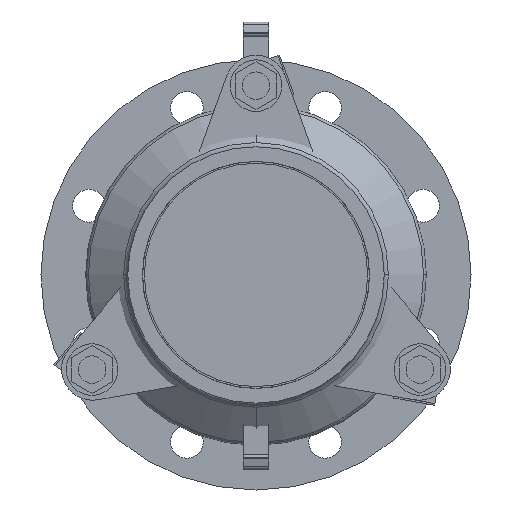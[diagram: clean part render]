
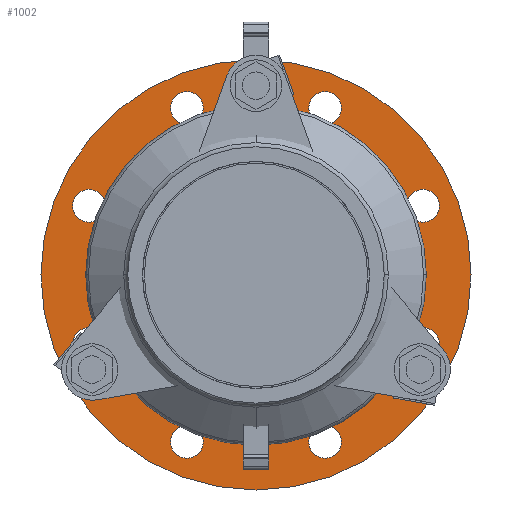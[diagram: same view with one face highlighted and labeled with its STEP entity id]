
A CAD part, left-side view. The second image highlights one B-rep face of the part: STEP entity #1002.
In plain terms, the highlighted planar face has unit normal (-1, 0, 0).
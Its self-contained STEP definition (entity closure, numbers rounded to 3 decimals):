
#1002=ADVANCED_FACE('',(#1963,#1964,#1965,#1966,#1967,#1968,#1969,#1970,#1971,#1972),#1973,.T.);
#1963=FACE_BOUND('',#3173,.T.);
#1964=FACE_BOUND('',#3174,.T.);
#1965=FACE_BOUND('',#3175,.T.);
#1966=FACE_BOUND('',#3176,.T.);
#1967=FACE_BOUND('',#3177,.T.);
#1968=FACE_BOUND('',#3178,.T.);
#1969=FACE_BOUND('',#3179,.T.);
#1970=FACE_BOUND('',#3180,.T.);
#1971=FACE_BOUND('',#3181,.T.);
#1972=FACE_OUTER_BOUND('',#3182,.T.);
#1973=PLANE('',#3183);
#3173=EDGE_LOOP('',(#4903,#4904));
#3174=EDGE_LOOP('',(#4905,#4906));
#3175=EDGE_LOOP('',(#4907,#4908));
#3176=EDGE_LOOP('',(#4909,#4910));
#3177=EDGE_LOOP('',(#4911,#4912));
#3178=EDGE_LOOP('',(#4913,#4914));
#3179=EDGE_LOOP('',(#4915,#4916));
#3180=EDGE_LOOP('',(#4917,#4918));
#3181=EDGE_LOOP('',(#4919,#4920));
#3182=EDGE_LOOP('',(#4921,#4922));
#3183=AXIS2_PLACEMENT_3D('',#4923,#4924,#4925);
#4903=ORIENTED_EDGE('',*,*,#6595,.T.);
#4904=ORIENTED_EDGE('',*,*,#7011,.T.);
#4905=ORIENTED_EDGE('',*,*,#6514,.T.);
#4906=ORIENTED_EDGE('',*,*,#6840,.T.);
#4907=ORIENTED_EDGE('',*,*,#6619,.T.);
#4908=ORIENTED_EDGE('',*,*,#6833,.T.);
#4909=ORIENTED_EDGE('',*,*,#7012,.T.);
#4910=ORIENTED_EDGE('',*,*,#7013,.T.);
#4911=ORIENTED_EDGE('',*,*,#7014,.T.);
#4912=ORIENTED_EDGE('',*,*,#7015,.T.);
#4913=ORIENTED_EDGE('',*,*,#6960,.T.);
#4914=ORIENTED_EDGE('',*,*,#7016,.T.);
#4915=ORIENTED_EDGE('',*,*,#7017,.T.);
#4916=ORIENTED_EDGE('',*,*,#6517,.T.);
#4917=ORIENTED_EDGE('',*,*,#7018,.T.);
#4918=ORIENTED_EDGE('',*,*,#6953,.T.);
#4919=ORIENTED_EDGE('',*,*,#7019,.T.);
#4920=ORIENTED_EDGE('',*,*,#6948,.T.);
#4921=ORIENTED_EDGE('',*,*,#7020,.F.);
#4922=ORIENTED_EDGE('',*,*,#6677,.F.);
#4923=CARTESIAN_POINT('',(-19.0,0.0,0.));
#4924=DIRECTION('',(-1.0,0.0,0.));
#4925=DIRECTION('',(0.,0.0,-1.0));
#6514=EDGE_CURVE('',#7644,#7649,#7651,.T.);
#6517=EDGE_CURVE('',#7656,#7653,#7657,.T.);
#6595=EDGE_CURVE('',#7782,#7787,#7789,.T.);
#6619=EDGE_CURVE('',#7825,#7830,#7832,.T.);
#6677=EDGE_CURVE('',#7926,#7922,#7928,.T.);
#6833=EDGE_CURVE('',#7830,#7825,#8175,.T.);
#6840=EDGE_CURVE('',#7649,#7644,#8184,.T.);
#6948=EDGE_CURVE('',#8345,#8342,#8346,.T.);
#6953=EDGE_CURVE('',#8354,#8351,#8355,.T.);
#6960=EDGE_CURVE('',#8360,#8365,#8367,.T.);
#7011=EDGE_CURVE('',#7787,#7782,#8435,.T.);
#7012=EDGE_CURVE('',#8436,#8437,#8438,.T.);
#7013=EDGE_CURVE('',#8437,#8436,#8439,.T.);
#7014=EDGE_CURVE('',#8440,#8441,#8442,.T.);
#7015=EDGE_CURVE('',#8441,#8440,#8443,.T.);
#7016=EDGE_CURVE('',#8365,#8360,#8444,.T.);
#7017=EDGE_CURVE('',#7653,#7656,#8445,.T.);
#7018=EDGE_CURVE('',#8351,#8354,#8446,.T.);
#7019=EDGE_CURVE('',#8342,#8345,#8447,.T.);
#7020=EDGE_CURVE('',#7922,#7926,#8448,.T.);
#7644=VERTEX_POINT('',#9210);
#7649=VERTEX_POINT('',#9216);
#7651=CIRCLE('',#9219,9.5);
#7653=VERTEX_POINT('',#9221);
#7656=VERTEX_POINT('',#9225);
#7657=CIRCLE('',#9226,9.5);
#7782=VERTEX_POINT('',#9382);
#7787=VERTEX_POINT('',#9388);
#7789=CIRCLE('',#9391,9.5);
#7825=VERTEX_POINT('',#9439);
#7830=VERTEX_POINT('',#9445);
#7832=CIRCLE('',#9448,9.5);
#7922=VERTEX_POINT('',#9566);
#7926=VERTEX_POINT('',#9571);
#7928=CIRCLE('',#9574,125.0);
#8175=CIRCLE('',#9896,9.5);
#8184=CIRCLE('',#9907,9.5);
#8342=VERTEX_POINT('',#10113);
#8345=VERTEX_POINT('',#10117);
#8346=CIRCLE('',#10118,62.5);
#8351=VERTEX_POINT('',#10124);
#8354=VERTEX_POINT('',#10128);
#8355=CIRCLE('',#10129,9.5);
#8360=VERTEX_POINT('',#10135);
#8365=VERTEX_POINT('',#10141);
#8367=CIRCLE('',#10144,9.5);
#8435=CIRCLE('',#10235,9.5);
#8436=VERTEX_POINT('',#10236);
#8437=VERTEX_POINT('',#10237);
#8438=CIRCLE('',#10238,9.5);
#8439=CIRCLE('',#10239,9.5);
#8440=VERTEX_POINT('',#10240);
#8441=VERTEX_POINT('',#10241);
#8442=CIRCLE('',#10242,9.5);
#8443=CIRCLE('',#10243,9.5);
#8444=CIRCLE('',#10244,9.5);
#8445=CIRCLE('',#10245,9.5);
#8446=CIRCLE('',#10246,9.5);
#8447=CIRCLE('',#10247,62.5);
#8448=CIRCLE('',#10248,125.0);
#9210=CARTESIAN_POINT('',(-19.0,-40.182,-106.507));
#9216=CARTESIAN_POINT('',(-19.0,-40.182,-87.507));
#9219=AXIS2_PLACEMENT_3D('',#11017,#11018,#11019);
#9221=CARTESIAN_POINT('',(-19.0,-40.182,87.508));
#9225=CARTESIAN_POINT('',(-19.0,-40.182,106.508));
#9226=AXIS2_PLACEMENT_3D('',#11021,#11022,#11023);
#9382=CARTESIAN_POINT('',(-19.0,-97.007,-49.681));
#9388=CARTESIAN_POINT('',(-19.0,-97.007,-30.681));
#9391=AXIS2_PLACEMENT_3D('',#11141,#11142,#11143);
#9439=CARTESIAN_POINT('',(-19.0,40.182,-106.507));
#9445=CARTESIAN_POINT('',(-19.0,40.182,-87.507));
#9448=AXIS2_PLACEMENT_3D('',#11173,#11174,#11175);
#9566=CARTESIAN_POINT('',(-19.0,0.0,-125.0));
#9571=CARTESIAN_POINT('',(-19.0,0.,125.0));
#9574=AXIS2_PLACEMENT_3D('',#11251,#11252,#11253);
#9896=AXIS2_PLACEMENT_3D('',#11443,#11444,#11445);
#9907=AXIS2_PLACEMENT_3D('',#11454,#11455,#11456);
#10113=CARTESIAN_POINT('',(-19.0,0.0,62.5));
#10117=CARTESIAN_POINT('',(-19.0,0.,-62.5));
#10118=AXIS2_PLACEMENT_3D('',#11596,#11597,#11598);
#10124=CARTESIAN_POINT('',(-19.0,-97.007,30.682));
#10128=CARTESIAN_POINT('',(-19.0,-97.007,49.682));
#10129=AXIS2_PLACEMENT_3D('',#11604,#11605,#11606);
#10135=CARTESIAN_POINT('',(-19.0,40.182,87.508));
#10141=CARTESIAN_POINT('',(-19.0,40.182,106.508));
#10144=AXIS2_PLACEMENT_3D('',#11616,#11617,#11618);
#10235=AXIS2_PLACEMENT_3D('',#11675,#11676,#11677);
#10236=CARTESIAN_POINT('',(-19.0,97.007,-49.681));
#10237=CARTESIAN_POINT('',(-19.0,97.007,-30.681));
#10238=AXIS2_PLACEMENT_3D('',#11678,#11679,#11680);
#10239=AXIS2_PLACEMENT_3D('',#11681,#11682,#11683);
#10240=CARTESIAN_POINT('',(-19.0,97.007,30.682));
#10241=CARTESIAN_POINT('',(-19.0,97.007,49.682));
#10242=AXIS2_PLACEMENT_3D('',#11684,#11685,#11686);
#10243=AXIS2_PLACEMENT_3D('',#11687,#11688,#11689);
#10244=AXIS2_PLACEMENT_3D('',#11690,#11691,#11692);
#10245=AXIS2_PLACEMENT_3D('',#11693,#11694,#11695);
#10246=AXIS2_PLACEMENT_3D('',#11696,#11697,#11698);
#10247=AXIS2_PLACEMENT_3D('',#11699,#11700,#11701);
#10248=AXIS2_PLACEMENT_3D('',#11702,#11703,#11704);
#11017=CARTESIAN_POINT('',(-19.0,-40.182,-97.007));
#11018=DIRECTION('',(1.0,0.0,0.));
#11019=DIRECTION('',(0.,0.0,-1.0));
#11021=CARTESIAN_POINT('',(-19.0,-40.182,97.008));
#11022=DIRECTION('',(1.0,0.0,0.));
#11023=DIRECTION('',(0.,0.0,-1.0));
#11141=CARTESIAN_POINT('',(-19.0,-97.007,-40.181));
#11142=DIRECTION('',(1.0,0.0,0.));
#11143=DIRECTION('',(0.,0.0,-1.0));
#11173=CARTESIAN_POINT('',(-19.0,40.182,-97.007));
#11174=DIRECTION('',(1.0,0.0,0.));
#11175=DIRECTION('',(0.,0.0,-1.0));
#11251=CARTESIAN_POINT('',(-19.0,0.0,0.));
#11252=DIRECTION('',(1.0,0.0,0.));
#11253=DIRECTION('',(0.,0.0,-1.0));
#11443=CARTESIAN_POINT('',(-19.0,40.182,-97.007));
#11444=DIRECTION('',(1.0,0.0,0.));
#11445=DIRECTION('',(0.,0.0,-1.0));
#11454=CARTESIAN_POINT('',(-19.0,-40.182,-97.007));
#11455=DIRECTION('',(1.0,0.0,0.));
#11456=DIRECTION('',(0.,0.0,-1.0));
#11596=CARTESIAN_POINT('',(-19.0,0.0,0.));
#11597=DIRECTION('',(1.0,0.0,0.));
#11598=DIRECTION('',(0.,0.0,1.0));
#11604=CARTESIAN_POINT('',(-19.0,-97.007,40.182));
#11605=DIRECTION('',(1.0,0.0,0.));
#11606=DIRECTION('',(0.,0.0,-1.0));
#11616=CARTESIAN_POINT('',(-19.0,40.182,97.008));
#11617=DIRECTION('',(1.0,0.0,0.));
#11618=DIRECTION('',(0.,0.0,-1.0));
#11675=CARTESIAN_POINT('',(-19.0,-97.007,-40.181));
#11676=DIRECTION('',(1.0,0.0,0.));
#11677=DIRECTION('',(0.,0.0,-1.0));
#11678=CARTESIAN_POINT('',(-19.0,97.007,-40.181));
#11679=DIRECTION('',(1.0,0.0,0.));
#11680=DIRECTION('',(0.,0.0,-1.0));
#11681=CARTESIAN_POINT('',(-19.0,97.007,-40.181));
#11682=DIRECTION('',(1.0,0.0,0.));
#11683=DIRECTION('',(0.,0.0,-1.0));
#11684=CARTESIAN_POINT('',(-19.0,97.007,40.182));
#11685=DIRECTION('',(1.0,0.0,0.));
#11686=DIRECTION('',(0.,0.0,-1.0));
#11687=CARTESIAN_POINT('',(-19.0,97.007,40.182));
#11688=DIRECTION('',(1.0,0.0,0.));
#11689=DIRECTION('',(0.,0.0,-1.0));
#11690=CARTESIAN_POINT('',(-19.0,40.182,97.008));
#11691=DIRECTION('',(1.0,0.0,0.));
#11692=DIRECTION('',(0.,0.0,-1.0));
#11693=CARTESIAN_POINT('',(-19.0,-40.182,97.008));
#11694=DIRECTION('',(1.0,0.0,0.));
#11695=DIRECTION('',(0.,0.0,-1.0));
#11696=CARTESIAN_POINT('',(-19.0,-97.007,40.182));
#11697=DIRECTION('',(1.0,0.0,0.));
#11698=DIRECTION('',(0.,0.0,-1.0));
#11699=CARTESIAN_POINT('',(-19.0,0.0,0.));
#11700=DIRECTION('',(1.0,0.0,0.));
#11701=DIRECTION('',(0.,0.0,1.0));
#11702=CARTESIAN_POINT('',(-19.0,0.0,0.));
#11703=DIRECTION('',(1.0,0.0,0.));
#11704=DIRECTION('',(0.,0.0,-1.0));
